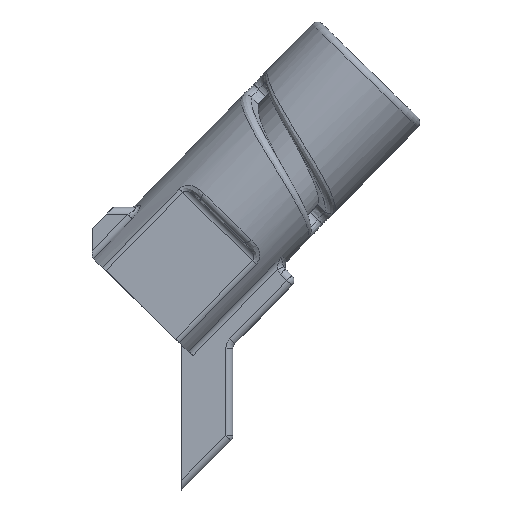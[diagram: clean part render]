
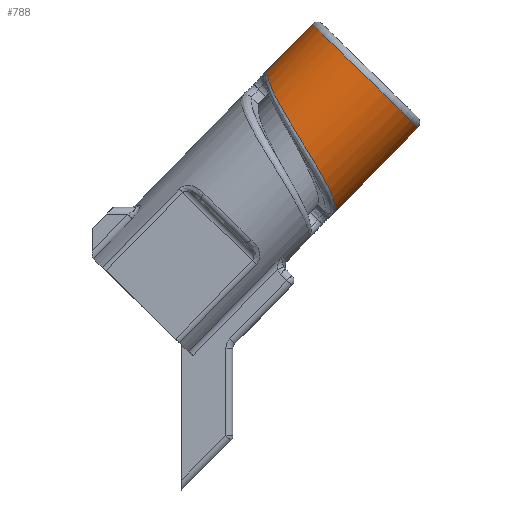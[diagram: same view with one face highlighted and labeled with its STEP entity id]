
A CAD part, front view. The second image highlights one B-rep face of the part: STEP entity #788.
In plain terms, the highlighted cylindrical face has radius 10.5 mm (diameter 21 mm), a partial arc.
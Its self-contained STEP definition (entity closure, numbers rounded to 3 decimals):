
#101 = CARTESIAN_POINT ( 'NONE',  ( 12.205, 0.807, 38.388 ) ) ;
#112 = ORIENTED_EDGE ( 'NONE', *, *, #5148, .T. ) ;
#150 = VECTOR ( 'NONE', #4321, 1000. ) ;
#166 = CARTESIAN_POINT ( 'NONE',  ( 15.2, -5.943, 32.022 ) ) ;
#186 = CARTESIAN_POINT ( 'NONE',  ( 21.062, -3.082, 21.984 ) ) ;
#283 = CARTESIAN_POINT ( 'NONE',  ( 21.491, 4., 18.525 ) ) ;
#326 = DIRECTION ( 'NONE',  ( -0.699, 0., -0.715 ) ) ;
#367 = CARTESIAN_POINT ( 'NONE',  ( 11.646, 4., 38.5 ) ) ;
#395 = CARTESIAN_POINT ( 'NONE',  ( 12.146, 2.292, 38.816 ) ) ;
#500 = CARTESIAN_POINT ( 'NONE',  ( 12.205, 1.404, 38.606 ) ) ;
#578 = EDGE_CURVE ( 'NONE', #3208, #3599, #4473, .T. ) ;
#586 = CARTESIAN_POINT ( 'NONE',  ( 16.154, -6.388, 30.442 ) ) ;
#603 = CARTESIAN_POINT ( 'NONE',  ( 21.534, -1.631, 20.884 ) ) ;
#609 = FACE_OUTER_BOUND ( 'NONE', #1068, .T. ) ;
#784 = CARTESIAN_POINT ( 'NONE',  ( 26.78, 4., 38.969 ) ) ;
#788 = ADVANCED_FACE ( 'NONE', ( #609 ), #3698, .T. ) ;
#818 = CARTESIAN_POINT ( 'NONE',  ( 12.205, 1.621, 38.685 ) ) ;
#884 = ORIENTED_EDGE ( 'NONE', *, *, #4199, .T. ) ;
#965 = CIRCLE ( 'NONE', #1623, 10.5 ) ;
#972 = CARTESIAN_POINT ( 'NONE',  ( 12.205, 1.404, 38.606 ) ) ;
#977 = CARTESIAN_POINT ( 'NONE',  ( 12.388, -0.878, 37.568 ) ) ;
#993 = CARTESIAN_POINT ( 'NONE',  ( 17.135, -6.517, 28.84 ) ) ;
#1009 = CARTESIAN_POINT ( 'NONE',  ( 21.814, 0.004, 19.958 ) ) ;
#1068 = EDGE_LOOP ( 'NONE', ( #3258, #112, #4996, #884, #4681, #2627 ) ) ;
#1112 = VERTEX_POINT ( 'NONE', #3768 ) ;
#1380 = CARTESIAN_POINT ( 'NONE',  ( 12.773, -2.429, 36.54 ) ) ;
#1394 = CARTESIAN_POINT ( 'NONE',  ( 19.268, 4., 46.305 ) ) ;
#1396 = CARTESIAN_POINT ( 'NONE',  ( 18.121, -6.324, 27.229 ) ) ;
#1411 = CARTESIAN_POINT ( 'NONE',  ( 21.883, 1.746, 19.251 ) ) ;
#1623 = AXIS2_PLACEMENT_3D ( 'NONE', #2742, #326, #3150 ) ;
#1649 = AXIS2_PLACEMENT_3D ( 'NONE', #784, #4082, #3268 ) ;
#1763 = CARTESIAN_POINT ( 'NONE',  ( 21.636, 3.675, 18.678 ) ) ;
#1794 = CARTESIAN_POINT ( 'NONE',  ( 13.338, -3.771, 35.349 ) ) ;
#1806 = CARTESIAN_POINT ( 'NONE',  ( 19.054, -5.822, 25.674 ) ) ;
#1828 = CARTESIAN_POINT ( 'NONE',  ( 21.791, 2.959, 18.907 ) ) ;
#1857 = CARTESIAN_POINT ( 'NONE',  ( 11.646, 4., 38.5 ) ) ;
#2018 = B_SPLINE_CURVE_WITH_KNOTS ( 'NONE', 3,
 ( #500, #101, #3389, #977, #3797, #1380, #4207, #1794, #4631, #2195, #5046, #2598, #166, #2991, #586, #3404, #993, #3813, #1396, #4227, #1806, #4648, #2214, #5065, #2613, #186, #3014, #603, #3420, #1009, #3834, #1411, #4238, #1828 ),
 .UNSPECIFIED., .F., .F.,
 ( 4, 2, 2, 2, 2, 2, 2, 2, 2, 2, 2, 2, 2, 2, 2, 2, 4 ),
 ( 0., 0.002, 0.004, 0.006, 0.008, 0.009, 0.011, 0.013, 0.015, 0.017, 0.019, 0.021, 0.023, 0.024, 0.026, 0.028, 0.03 ),
 .UNSPECIFIED. ) ;
#2163 = CARTESIAN_POINT ( 'NONE',  ( 21.491, 4., 18.525 ) ) ;
#2195 = CARTESIAN_POINT ( 'NONE',  ( 14.059, -4.889, 33.992 ) ) ;
#2214 = CARTESIAN_POINT ( 'NONE',  ( 19.914, -5.015, 24.185 ) ) ;
#2265 = EDGE_CURVE ( 'NONE', #1112, #4014, #2565, .T. ) ;
#2418 = CARTESIAN_POINT ( 'NONE',  ( 11.961, 3.19, 38.781 ) ) ;
#2456 = B_SPLINE_CURVE_WITH_KNOTS ( 'NONE', 3,
 ( #367, #2765, #4866, #2418, #5274, #2816, #395, #3225, #818, #3635 ),
 .UNSPECIFIED., .F., .F.,
 ( 4, 2, 2, 2, 4 ),
 ( 0.002, 0.003, 0.004, 0.004, 0.005 ),
 .UNSPECIFIED. ) ;
#2555 = CARTESIAN_POINT ( 'NONE',  ( 21.791, 2.959, 18.907 ) ) ;
#2565 = LINE ( 'NONE', #1394, #3636 ) ;
#2598 = CARTESIAN_POINT ( 'NONE',  ( 14.899, -5.726, 32.532 ) ) ;
#2613 = CARTESIAN_POINT ( 'NONE',  ( 20.649, -3.944, 22.824 ) ) ;
#2627 = ORIENTED_EDGE ( 'NONE', *, *, #3180, .T. ) ;
#2742 = CARTESIAN_POINT ( 'NONE',  ( 26.081, 4., 38.253 ) ) ;
#2765 = CARTESIAN_POINT ( 'NONE',  ( 11.74, 3.813, 38.596 ) ) ;
#2816 = CARTESIAN_POINT ( 'NONE',  ( 12.111, 2.521, 38.83 ) ) ;
#2991 = CARTESIAN_POINT ( 'NONE',  ( 15.831, -6.276, 30.97 ) ) ;
#3014 = CARTESIAN_POINT ( 'NONE',  ( 21.241, -2.619, 21.598 ) ) ;
#3150 = DIRECTION ( 'NONE',  ( 0.715, 0., -0.699 ) ) ;
#3180 = EDGE_CURVE ( 'NONE', #3436, #3599, #4495, .T. ) ;
#3208 = VERTEX_POINT ( 'NONE', #3370 ) ;
#3225 = CARTESIAN_POINT ( 'NONE',  ( 12.193, 1.842, 38.743 ) ) ;
#3258 = ORIENTED_EDGE ( 'NONE', *, *, #578, .F. ) ;
#3268 = DIRECTION ( 'NONE',  ( -0.715, 0., 0.699 ) ) ;
#3370 = CARTESIAN_POINT ( 'NONE',  ( 33.593, 4., 30.917 ) ) ;
#3389 = CARTESIAN_POINT ( 'NONE',  ( 12.244, 0.231, 38.138 ) ) ;
#3404 = CARTESIAN_POINT ( 'NONE',  ( 16.806, -6.509, 29.378 ) ) ;
#3420 = CARTESIAN_POINT ( 'NONE',  ( 21.65, -1.107, 20.555 ) ) ;
#3436 = VERTEX_POINT ( 'NONE', #3547 ) ;
#3547 = CARTESIAN_POINT ( 'NONE',  ( 21.791, 2.959, 18.907 ) ) ;
#3599 = VERTEX_POINT ( 'NONE', #283 ) ;
#3635 = CARTESIAN_POINT ( 'NONE',  ( 12.205, 1.404, 38.606 ) ) ;
#3636 = VECTOR ( 'NONE', #3811, 1000. ) ;
#3698 = CYLINDRICAL_SURFACE ( 'NONE', #1649, 10.5 ) ;
#3768 = CARTESIAN_POINT ( 'NONE',  ( 18.569, 4., 45.589 ) ) ;
#3797 = CARTESIAN_POINT ( 'NONE',  ( 12.494, -1.412, 37.248 ) ) ;
#3811 = DIRECTION ( 'NONE',  ( -0.699, 0., -0.715 ) ) ;
#3813 = CARTESIAN_POINT ( 'NONE',  ( 17.796, -6.424, 27.759 ) ) ;
#3822 = EDGE_CURVE ( 'NONE', #4808, #3436, #2018, .T. ) ;
#3834 = CARTESIAN_POINT ( 'NONE',  ( 21.862, 0.575, 19.7 ) ) ;
#4014 = VERTEX_POINT ( 'NONE', #1857 ) ;
#4082 = DIRECTION ( 'NONE',  ( -0.699, 0., -0.715 ) ) ;
#4163 = CARTESIAN_POINT ( 'NONE',  ( 21.771, 3.146, 18.859 ) ) ;
#4177 = CARTESIAN_POINT ( 'NONE',  ( 21.736, 3.327, 18.805 ) ) ;
#4199 = EDGE_CURVE ( 'NONE', #4014, #4808, #2456, .T. ) ;
#4207 = CARTESIAN_POINT ( 'NONE',  ( 12.944, -2.901, 36.161 ) ) ;
#4227 = CARTESIAN_POINT ( 'NONE',  ( 18.75, -6.024, 26.187 ) ) ;
#4238 = CARTESIAN_POINT ( 'NONE',  ( 21.857, 2.345, 19.061 ) ) ;
#4321 = DIRECTION ( 'NONE',  ( -0.699, 0., -0.715 ) ) ;
#4473 = LINE ( 'NONE', #5163, #150 ) ;
#4495 = B_SPLINE_CURVE_WITH_KNOTS ( 'NONE', 3,
 ( #2555, #4163, #4177, #1763, #4598, #2163 ),
 .UNSPECIFIED., .F., .F.,
 ( 4, 2, 4 ),
 ( 0., 0.001, 0.001 ),
 .UNSPECIFIED. ) ;
#4598 = CARTESIAN_POINT ( 'NONE',  ( 21.57, 3.844, 18.606 ) ) ;
#4631 = CARTESIAN_POINT ( 'NONE',  ( 13.561, -4.17, 34.914 ) ) ;
#4648 = CARTESIAN_POINT ( 'NONE',  ( 19.64, -5.315, 24.666 ) ) ;
#4681 = ORIENTED_EDGE ( 'NONE', *, *, #3822, .T. ) ;
#4808 = VERTEX_POINT ( 'NONE', #972 ) ;
#4866 = CARTESIAN_POINT ( 'NONE',  ( 11.82, 3.614, 38.672 ) ) ;
#4996 = ORIENTED_EDGE ( 'NONE', *, *, #2265, .T. ) ;
#5046 = CARTESIAN_POINT ( 'NONE',  ( 14.329, -5.199, 33.516 ) ) ;
#5065 = CARTESIAN_POINT ( 'NONE',  ( 20.419, -4.33, 23.265 ) ) ;
#5148 = EDGE_CURVE ( 'NONE', #3208, #1112, #965, .T. ) ;
#5163 = CARTESIAN_POINT ( 'NONE',  ( 34.292, 4., 31.632 ) ) ;
#5274 = CARTESIAN_POINT ( 'NONE',  ( 12.019, 2.968, 38.813 ) ) ;
